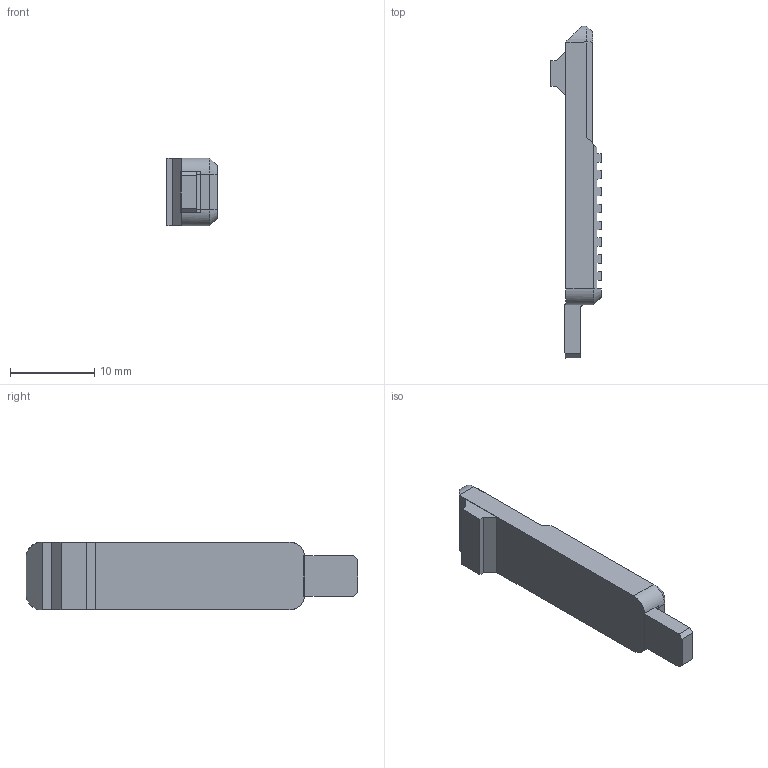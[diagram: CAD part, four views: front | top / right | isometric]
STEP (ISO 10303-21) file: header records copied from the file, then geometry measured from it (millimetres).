
FILE_DESCRIPTION(('HOOPS Exchange Step'),'2;1');
FILE_NAME('/private/var/mobile/Containers/Data/Application/3D331496-78D7-4D8A-96EF-C26D196FB948/tmp/export/temp_export','2026-09-20T20:21:04+19:00',('mobile'),('Shapr3D Limited'),'HOOPS Exchange 2026.3','Shapr3D','Authorized');
FILE_SCHEMA( ('AP242_MANAGED_MODEL_BASED_3D_ENGINEERING_MIM_LF {1 0 10303 442 1 1 4}') );
Length unit declared in the file: millimetre
Products named in the file (3): Button; Button.step; root
Assembly tree (2 placements, depth 3):
  root
    Button.step
      Button
Bounding box: 5.98 x 39.36 x 8.06 mm (x, y, z)
Volume: 1030.8 mm3; surface area: 943.4 mm2
Topology: 1 solids, 1 shells, 74 faces, 206 edges, 134 vertices
Faces by surface type: plane 63, cylinder 5, cone 4, torus 2
Entity records: 2430 total; most frequent: CARTESIAN_POINT 460, ORIENTED_EDGE 412, DIRECTION 372, EDGE_CURVE 206, VECTOR 180, LINE 180, VERTEX_POINT 134, AXIS2_PLACEMENT_3D 96
